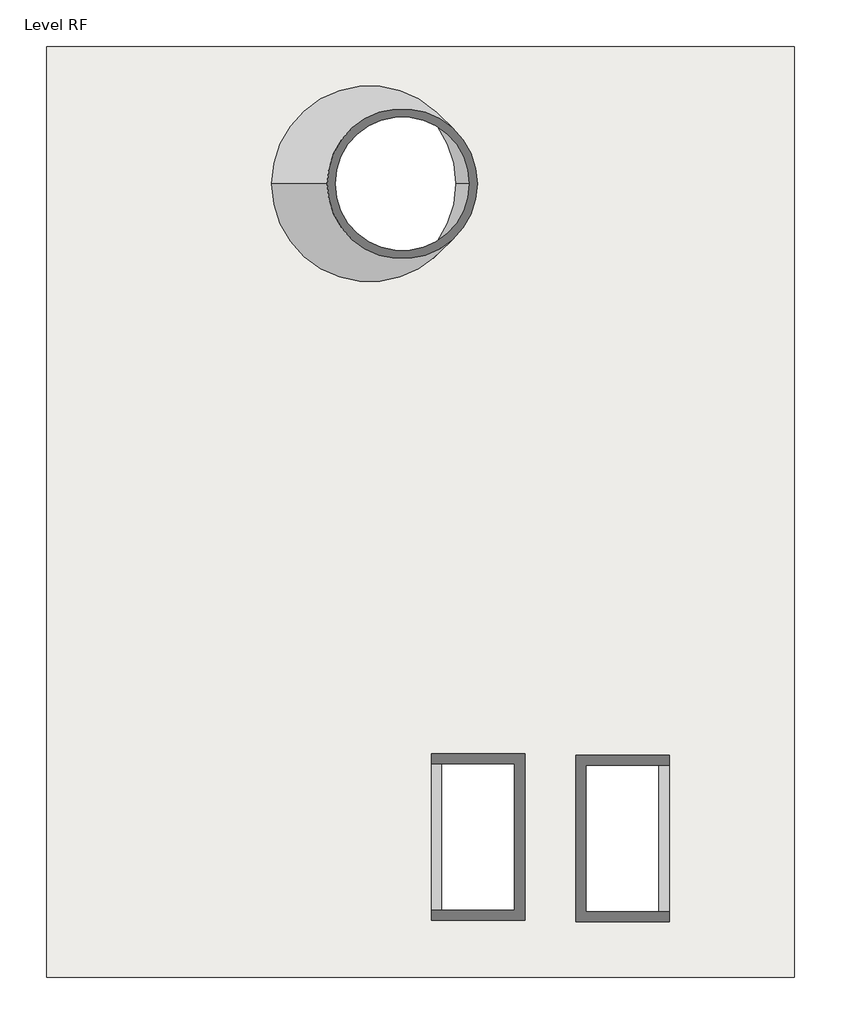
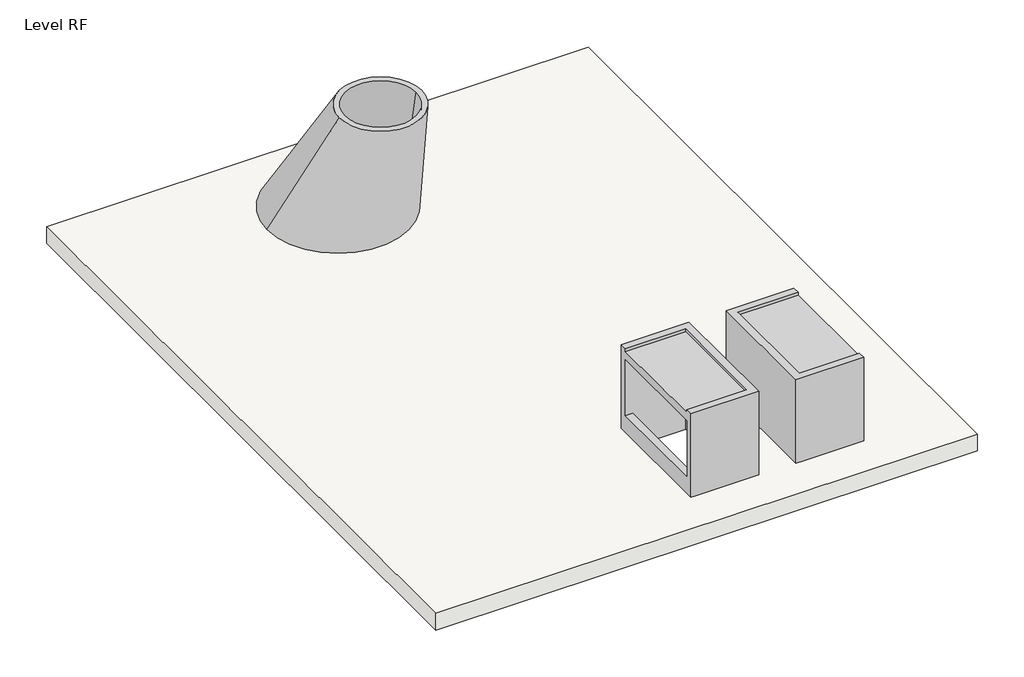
# One storey: 3 proxies, 1 roof.
"""IFC4 building model written with IfcOpenShell, lengths in millimetres."""

from ifc_helpers import new_model, si_unit, frame, origin, place, context, project, spatial, circle_curve, faceted_brep, element, save
from ifc_brep_helpers import plane_surface, spline_surface, advanced_brep

model = new_model("IFC4")

# Units and contexts
model_context = context("Model", 3, world=origin())
ifc_project = project(units=[si_unit("LENGTHUNIT", "METRE", prefix="MILLI")], contexts=[model_context])

# Site, building, storey
site = spatial("IfcSite", under=ifc_project)
building = spatial("IfcBuilding", under=site)
storey = spatial("IfcBuildingStorey", under=building, Name="Level RF", Elevation=6096.0)

# Proxies
placement = place(None, origin())
element("IfcBuildingElementProxy", 1, Name="tn_skylight_box_1 : tn_skylight_box_1", ObjectType="tn_skylight_box_1 : tn_skylight_box_1", at=placement, inside=storey, context=model_context, shape_type="Brep", body=[
    faceted_brep([(5565.4805965, -4376.8677583, 6705.6), (5565.4805965, -2548.0677583, 6705.6), (5438.4805965, -2548.0677583, 6705.6), (5438.4805965, -4376.8677583, 6705.6), (5438.4805965, -2421.0677583, 6096.0), (6606.8805965, -2421.0677583, 6096.0), (6606.8805965, -4503.8677583, 6096.0), (5438.4805965, -4503.8677583, 6096.0), (5565.4805965, -2548.0677583, 6096.0), (5565.4805965, -4376.8677583, 6096.0), (6479.8805965, -4376.8677583, 6096.0), (6479.8805965, -2548.0677583, 6096.0), (5438.4805965, -4376.8677583, 7924.8), (5438.4805965, -4376.8677583, 7874.0), (5438.4805965, -2548.0677583, 7874.0), (5438.4805965, -2548.0677583, 7924.8), (5438.4805965, -2421.0677583, 7924.8), (5438.4805965, -2421.0677583, 6400.8), (5438.4805965, -4503.8677583, 6400.8), (5438.4805965, -4503.8677583, 7924.8), (5438.4805965, -2548.0677583, 7721.6), (5438.4805965, -4376.8677583, 7721.6), (6479.8805965, -2548.0677583, 7924.8), (6479.8805965, -4376.8677583, 7924.8), (6606.8805965, -4503.8677583, 7924.8), (6606.8805965, -2421.0677583, 7924.8), (6479.8805965, -4376.8677583, 7721.6), (6479.8805965, -2548.0677583, 7721.6), (6479.8805965, -2548.0677583, 7874.0), (6479.8805965, -4376.8677583, 7874.0), (6606.8805965, -4503.8677583, 6400.8), (6606.8805965, -2421.0677583, 6400.8)], [[[0, 1, 2, 3]], [[4, 5, 6, 7], [8, 9, 10, 11]], [[1, 0, 9, 8]], [[12, 13, 14, 15, 16, 17, 4, 7, 18, 19], [3, 2, 20, 21]], [[22, 23, 12, 19, 24, 25, 16, 15]], [[11, 10, 26, 27]], [[23, 22, 28, 29]], [[10, 9, 0, 3, 21, 26]], [[12, 23, 29, 13]], [[24, 19, 18, 7, 6, 30]], [[25, 24, 30, 6, 5, 31]], [[16, 25, 31, 5, 4, 17]], [[8, 11, 27, 20, 2, 1]], [[22, 15, 14, 28]], [[14, 13, 29, 28]], [[21, 20, 27, 26]]]),
])
element("IfcBuildingElementProxy", 2, Name="tn_skylight_box_1 : tn_skylight_box_1", ObjectType="tn_skylight_box_1 : tn_skylight_box_1", at=placement, inside=storey, context=model_context, shape_type="Brep", body=[
    faceted_brep([(8284.1331198, -2565.3320648, 6705.6), (8284.1331198, -4394.1320648, 6705.6), (8411.1331198, -4394.1320648, 6705.6), (8411.1331198, -2565.3320648, 6705.6), (8411.1331198, -4521.1320648, 6096.0), (7242.7331198, -4521.1320648, 6096.0), (7242.7331198, -2438.3320648, 6096.0), (8411.1331198, -2438.3320648, 6096.0), (8284.1331198, -4394.1320648, 6096.0), (8284.1331198, -2565.3320648, 6096.0), (7369.7331198, -2565.3320648, 6096.0), (7369.7331198, -4394.1320648, 6096.0), (8411.1331198, -2565.3320648, 7924.8), (8411.1331198, -2565.3320648, 7874.0), (8411.1331198, -4394.1320648, 7874.0), (8411.1331198, -4394.1320648, 7924.8), (8411.1331198, -4521.1320648, 7924.8), (8411.1331198, -4521.1320648, 6400.8), (8411.1331198, -2438.3320648, 6400.8), (8411.1331198, -2438.3320648, 7924.8), (8411.1331198, -4394.1320648, 7721.6), (8411.1331198, -2565.3320648, 7721.6), (7369.7331198, -4394.1320648, 7924.8), (7369.7331198, -2565.3320648, 7924.8), (7242.7331198, -2438.3320648, 7924.8), (7242.7331198, -4521.1320648, 7924.8), (7369.7331198, -2565.3320648, 7721.6), (7369.7331198, -4394.1320648, 7721.6), (7369.7331198, -4394.1320648, 7874.0), (7369.7331198, -2565.3320648, 7874.0), (7242.7331198, -2438.3320648, 6400.8), (7242.7331198, -4521.1320648, 6400.8)], [[[0, 1, 2, 3]], [[4, 5, 6, 7], [8, 9, 10, 11]], [[1, 0, 9, 8]], [[12, 13, 14, 15, 16, 17, 4, 7, 18, 19], [3, 2, 20, 21]], [[22, 23, 12, 19, 24, 25, 16, 15]], [[11, 10, 26, 27]], [[23, 22, 28, 29]], [[10, 9, 0, 3, 21, 26]], [[12, 23, 29, 13]], [[24, 19, 18, 7, 6, 30]], [[25, 24, 30, 6, 5, 31]], [[16, 25, 31, 5, 4, 17]], [[8, 11, 27, 20, 2, 1]], [[22, 15, 14, 28]], [[14, 13, 29, 28]], [[21, 20, 27, 26]]]),
])
element("IfcBuildingElementProxy", 3, Name="tn_skylight_round_1 : tn_skylight_round_1", ObjectType="tn_skylight_round_1 : tn_skylight_round_1", at=placement, inside=storey, context=model_context, shape_type="AdvancedBrep", body=[
    advanced_brep(
    [(4688.1647587, 4702.119698, 8007.1139934), (6110.5647587, 4702.119698, 8007.1139934), (6008.9647587, 4702.119698, 8007.1139934), (4789.7647587, 4702.119698, 8007.1139934), (3205.0089644, 4702.119698, 6096.0), (5846.6089644, 4702.119698, 6096.0), (3306.6089644, 4702.119698, 6096.0), (5745.0089644, 4702.119698, 6096.0)],
    [
        (0, 1, circle_curve(frame((5399.3647587, 4702.119698, 8007.1139934), z_axis=(0.0, 0.0, 1.0), x_axis=(1.0, 0.0, 0.0)), 711.2)),
        (1, 0, circle_curve(frame((5399.3647587, 4702.119698, 8007.1139934), z_axis=(0.0, 0.0, 1.0), x_axis=(1.0, 0.0, 0.0)), 711.2)),
        (2, 3, circle_curve(frame((5399.3647587, 4702.119698, 8007.1139934), z_axis=(0.0, 0.0, -1.0), x_axis=(1.0, 0.0, 0.0)), 609.6)),
        (3, 2, circle_curve(frame((5399.3647587, 4702.119698, 8007.1139934), z_axis=(0.0, 0.0, -1.0), x_axis=(1.0, 0.0, 0.0)), 609.6)),
        (4, 5, circle_curve(frame((4525.8089644, 4702.119698, 6096.0), z_axis=(0.0, 0.0, -1.0), x_axis=(1.0, 0.0, 0.0)), 1320.8)),
        (5, 4, circle_curve(frame((4525.8089644, 4702.119698, 6096.0), z_axis=(0.0, 0.0, -1.0), x_axis=(1.0, 0.0, 0.0)), 1320.8)),
        (6, 7, circle_curve(frame((4525.8089644, 4702.119698, 6096.0), z_axis=(0.0, 0.0, 1.0), x_axis=(1.0, 0.0, 0.0)), 1219.2)),
        (7, 6, circle_curve(frame((4525.8089644, 4702.119698, 6096.0), z_axis=(0.0, 0.0, 1.0), x_axis=(1.0, 0.0, 0.0)), 1219.2)),
        (0, 4),
        (5, 1),
        (6, 3),
        (2, 7),
    ],
    [
        plane_surface(frame((5399.3647587, 4702.119698, 8007.1139934), z_axis=(0.0, 0.0, 1.0), x_axis=(0.0, -1.0, 0.0))),
        plane_surface(frame((4525.8089644, 4702.119698, 6096.0), z_axis=(0.0, 0.0, -1.0), x_axis=(0.0, -1.0, 0.0))),
        spline_surface(2, 1, [[(3205.0089644, 4702.119698, 6096.0), (4688.1647587, 4702.119698, 8007.1139934)], [(3205.0089644, 3381.3196980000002, 6096.0), (4688.1647587, 3990.9196980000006, 8007.1139934)], [(4525.8089644, 3381.3196980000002, 6096.0), (5399.3647587, 3990.9196980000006, 8007.1139934)], [(5846.6089644, 3381.3196980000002, 6096.0), (6110.564758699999, 3990.9196980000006, 8007.1139934)], [(5846.6089644, 4702.119698, 6096.0), (6110.5647587, 4702.119698, 8007.1139934)]], [3, 2, 3], [2, 2], [0.0, 1.0, 2.0], [0.0, 1.0], weights=[[1.0, 1.0], [0.7071067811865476, 0.7071067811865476], [1.0, 1.0], [0.7071067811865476, 0.7071067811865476], [1.0, 1.0]]),
        spline_surface(2, 1, [[(5846.6089644, 4702.119698, 6096.0), (6110.5647587, 4702.119698, 8007.1139934)], [(5846.6089644, 6022.919698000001, 6096.0), (6110.5647587, 5413.319698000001, 8007.1139934)], [(4525.8089644, 6022.919698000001, 6096.0), (5399.3647587, 5413.319698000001, 8007.1139934)], [(3205.0089644, 6022.919698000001, 6096.0), (4688.164758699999, 5413.319698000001, 8007.1139934)], [(3205.0089644, 4702.119698, 6096.0), (4688.1647587, 4702.119698, 8007.1139934)]], [3, 2, 3], [2, 2], [0.0, 1.0, 2.0], [0.0, 1.0], weights=[[1.0, 1.0], [0.7071067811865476, 0.7071067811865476], [1.0, 1.0], [0.7071067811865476, 0.7071067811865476], [1.0, 1.0]]),
        spline_surface(1, 2, [[(3306.6089644, 4702.119698, 6096.0), (3306.6089644, 3482.919698, 6096.0), (4525.8089644, 3482.919698, 6096.0), (5745.0089644, 3482.9196979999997, 6096.0), (5745.0089644, 4702.119698, 6096.0)], [(4789.7647587, 4702.119698, 8007.1139934), (4789.7647587, 4092.519698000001, 8007.1139934), (5399.3647587, 4092.519698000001, 8007.1139934), (6008.964758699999, 4092.519698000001, 8007.1139934), (6008.9647587, 4702.119698, 8007.1139934)]], [2, 2], [3, 2, 3], [0.0, 1.0], [0.0, 1.0, 2.0], weights=[[1.0, 0.7071067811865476, 1.0, 0.7071067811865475, 1.0], [1.0, 0.7071067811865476, 1.0, 0.7071067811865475, 1.0]]),
        spline_surface(1, 2, [[(5745.0089644, 4702.119698, 6096.0), (5745.0089644, 5921.319698, 6096.0), (4525.8089644, 5921.319698, 6096.0), (3306.6089644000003, 5921.319698, 6096.0), (3306.6089644, 4702.119698, 6096.0)], [(6008.9647587, 4702.119698, 8007.1139934), (6008.9647587, 5311.719698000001, 8007.1139934), (5399.3647587, 5311.719698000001, 8007.1139934), (4789.764758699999, 5311.719698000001, 8007.1139934), (4789.7647587, 4702.119698, 8007.1139934)]], [2, 2], [3, 2, 3], [0.0, 1.0], [0.0, 1.0, 2.0], weights=[[1.0, 0.7071067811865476, 1.0, 0.7071067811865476, 1.0], [1.0, 0.7071067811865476, 1.0, 0.7071067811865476, 1.0]]),
    ],
    [
        (0, [[1, 2], [3, 4]]),
        (1, [[5, 6], [7, 8]]),
        (2, [[-1, 9, -6, 10]]),
        (3, [[-2, -10, -5, -9]]),
        (4, [[11, -3, 12, -7]]),
        (5, [[-11, -8, -12, -4]]),
    ],
),
])

# Roof
element("IfcRoof", 4, ObjectType="Generic - 12\"", at=placement, inside=storey, context=model_context, shape_type="AdvancedBrep", body=[
    advanced_brep(
    [(625.7700932, -5216.2638448, 6096.0), (625.7700932, 6416.9361552, 6096.0), (9972.9700932, 6416.9361552, 6096.0), (9972.9700932, -5216.2638448, 6096.0), (5438.4805965, -2421.0677583, 6096.0), (5438.4805965, -4503.8677583, 6096.0), (6606.8805965, -4503.8677583, 6096.0), (6606.8805965, -2421.0677583, 6096.0), (8411.1331198, -4521.1320648, 6096.0), (8411.1331198, -2438.3320648, 6096.0), (7242.7331198, -2438.3320648, 6096.0), (7242.7331198, -4521.1320648, 6096.0), (3205.0089644, 4702.119698, 6096.0), (5846.6089644, 4702.119698, 6096.0), (9972.9700932, -5216.2638448, 6400.8), (9972.9700932, 6416.9361552, 6400.8), (625.7700932, 6416.9361552, 6400.8), (625.7700932, -5216.2638448, 6400.8), (5438.4805965, -4503.8677583, 6400.8), (5438.4805965, -2421.0677583, 6400.8), (6606.8805965, -2421.0677583, 6400.8), (6606.8805965, -4503.8677583, 6400.8), (8411.1331198, -2438.3320648, 6400.8), (8411.1331198, -4521.1320648, 6400.8), (7242.7331198, -4521.1320648, 6400.8), (7242.7331198, -2438.3320648, 6400.8), (5888.7067809, 4702.119698, 6400.8), (3441.5547109, 4702.119698, 6400.8)],
    [
        (0, 1),
        (1, 2),
        (2, 3),
        (3, 0),
        (4, 5),
        (5, 6),
        (6, 7),
        (7, 4),
        (8, 9),
        (9, 10),
        (10, 11),
        (11, 8),
        (12, 13, circle_curve(frame((4525.8089644, 4702.119698, 6096.0), z_axis=(0.0, 0.0, 1.0), x_axis=(1.0, 0.0, 0.0)), 1320.8)),
        (13, 12, circle_curve(frame((4525.8089644, 4702.119698, 6096.0), z_axis=(0.0, 0.0, 1.0), x_axis=(1.0, 0.0, 0.0)), 1320.8)),
        (14, 15),
        (15, 16),
        (16, 17),
        (17, 14),
        (18, 19),
        (19, 20),
        (20, 21),
        (21, 18),
        (22, 23),
        (23, 24),
        (24, 25),
        (25, 22),
        (26, 27, circle_curve(frame((4665.1307459, 4702.119698, 6400.8), z_axis=(0.0, 0.0, -1.0), x_axis=(1.0, 0.0, 0.0)), 1223.576035)),
        (27, 26, circle_curve(frame((4665.1307459, 4702.119698, 6400.8), z_axis=(0.0, 0.0, -1.0), x_axis=(1.0, 0.0, 0.0)), 1223.576035)),
        (1, 16),
        (15, 2),
        (14, 3),
        (17, 0),
        (4, 19),
        (18, 5),
        (20, 7),
        (6, 21),
        (8, 23),
        (22, 9),
        (25, 10),
        (24, 11),
        (26, 13),
        (12, 27),
    ],
    [
        plane_surface(frame((9972.9700932, 6416.9361552, 6096.0), z_axis=(0.0, 0.0, -1.0), x_axis=(1.0, 0.0, 0.0))),
        plane_surface(frame((9972.9700932, 6416.9361552, 6400.8), z_axis=(0.0, 0.0, 1.0), x_axis=(1.0, 0.0, 0.0))),
        plane_surface(frame((9972.9700932, 6416.9361552, 6096.0), z_axis=(0.0, 1.0, 0.0), x_axis=(-1.0, 0.0, 0.0))),
        plane_surface(frame((9972.9700932, -5216.2638448, 6096.0), z_axis=(1.0, 0.0, 0.0), x_axis=(0.0, 1.0, 0.0))),
        plane_surface(frame((625.7700932, -5216.2638448, 6096.0), z_axis=(0.0, -1.0, 0.0), x_axis=(1.0, 0.0, 0.0))),
        plane_surface(frame((625.7700932, 6416.9361552, 6096.0), z_axis=(-1.0, 0.0, 0.0), x_axis=(0.0, -1.0, 0.0))),
        plane_surface(frame((5438.4805965, -2548.0677583, 6705.6), z_axis=(1.0, 0.0, 0.0), x_axis=(0.0, 0.0, -1.0))),
        plane_surface(frame((6606.8805965, -4503.8677583, 7924.8), z_axis=(-1.0, 0.0, 0.0), x_axis=(0.0, 0.0, -1.0))),
        plane_surface(frame((6606.8805965, -2421.0677583, 7924.8), z_axis=(0.0, -1.0, 0.0), x_axis=(0.0, 0.0, -1.0))),
        plane_surface(frame((8411.1331198, -4394.1320648, 6705.6), z_axis=(-1.0, 0.0, 0.0), x_axis=(0.0, 0.0, -1.0))),
        plane_surface(frame((8411.1331198, -2438.3320648, 7924.8), z_axis=(0.0, -1.0, 0.0), x_axis=(0.0, 0.0, -1.0))),
        plane_surface(frame((7242.7331198, -2438.3320648, 7924.8), z_axis=(1.0, 0.0, 0.0), x_axis=(0.0, 0.0, -1.0))),
        plane_surface(frame((7242.7331198, -4521.1320648, 7924.8), z_axis=(0.0, 1.0, 0.0), x_axis=(0.0, 0.0, -1.0))),
        spline_surface(1, 2, [[(3205.0089644, 4702.119698, 6096.0), (3205.0089644, 3381.3196980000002, 6096.0), (4525.8089644, 3381.3196980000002, 6096.0), (5846.6089644, 3381.3196980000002, 6096.0), (5846.6089644, 4702.119698, 6096.0)], [(4688.1647587, 4702.119698, 8007.1139934), (4688.1647587, 3990.9196980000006, 8007.1139934), (5399.3647587, 3990.9196980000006, 8007.1139934), (6110.564758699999, 3990.9196980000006, 8007.1139934), (6110.5647587, 4702.119698, 8007.1139934)]], [2, 2], [3, 2, 3], [0.0, 1.0], [0.0, 1.0, 2.0], weights=[[1.0, 0.7071067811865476, 1.0, 0.7071067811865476, 1.0], [1.0, 0.7071067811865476, 1.0, 0.7071067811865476, 1.0]]),
        spline_surface(1, 2, [[(5846.6089644, 4702.119698, 6096.0), (5846.6089644, 6022.919698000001, 6096.0), (4525.8089644, 6022.919698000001, 6096.0), (3205.0089644, 6022.919698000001, 6096.0), (3205.0089644, 4702.119698, 6096.0)], [(6110.5647587, 4702.119698, 8007.1139934), (6110.5647587, 5413.319698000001, 8007.1139934), (5399.3647587, 5413.319698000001, 8007.1139934), (4688.164758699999, 5413.319698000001, 8007.1139934), (4688.1647587, 4702.119698, 8007.1139934)]], [2, 2], [3, 2, 3], [0.0, 1.0], [0.0, 1.0, 2.0], weights=[[1.0, 0.7071067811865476, 1.0, 0.7071067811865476, 1.0], [1.0, 0.7071067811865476, 1.0, 0.7071067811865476, 1.0]]),
        plane_surface(frame((5438.4805965, -4503.8677583, 7924.8), z_axis=(0.0, 1.0, 0.0), x_axis=(0.0, 0.0, -1.0))),
    ],
    [
        (0, [[1, 2, 3, 4], [5, 6, 7, 8], [9, 10, 11, 12], [13, 14]]),
        (1, [[15, 16, 17, 18], [19, 20, 21, 22], [23, 24, 25, 26], [27, 28]]),
        (2, [[-2, 29, -16, 30]]),
        (3, [[-3, -30, -15, 31]]),
        (4, [[-4, -31, -18, 32]]),
        (5, [[-1, -32, -17, -29]]),
        (6, [[33, -19, 34, -5]]),
        (7, [[35, -7, 36, -21]]),
        (8, [[-33, -8, -35, -20]]),
        (9, [[37, -23, 38, -9]]),
        (10, [[-38, -26, 39, -10]]),
        (11, [[-39, -25, 40, -11]]),
        (12, [[-37, -12, -40, -24]]),
        (13, [[41, -13, 42, -27]]),
        (14, [[-41, -28, -42, -14]]),
        (15, [[-36, -6, -34, -22]]),
    ],
),
])

save(model, "model.ifc")
